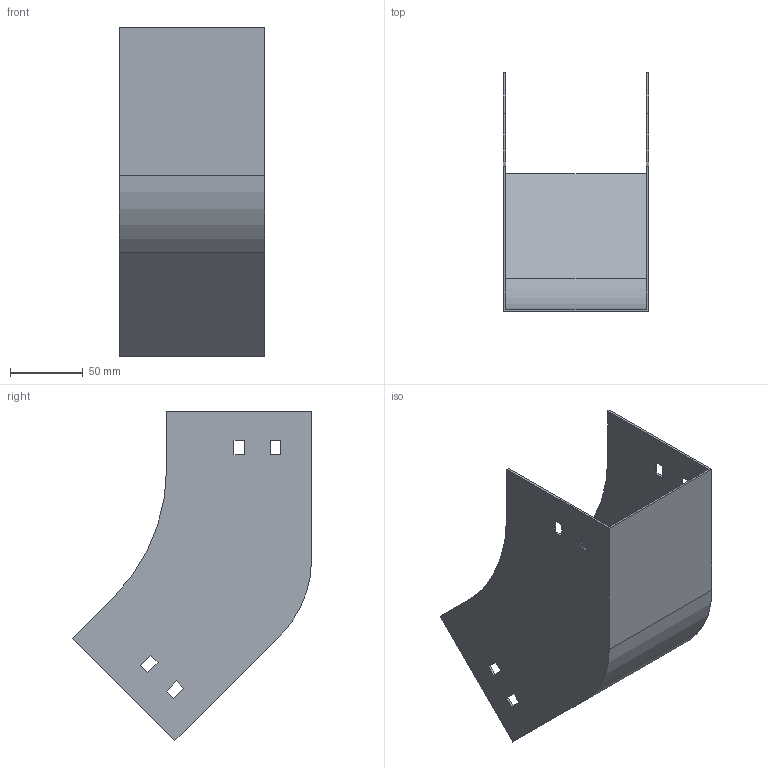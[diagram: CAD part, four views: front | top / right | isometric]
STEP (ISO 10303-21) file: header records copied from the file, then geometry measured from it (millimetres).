
FILE_DESCRIPTION (( 'STEP AP214' ), '1' );
FILE_NAME ('S4_101.step', '2025-07-16T09:26:09', ( '' ), ( '' ), 'SwSTEP 2.0', 'SolidWorks 2023', '' );
FILE_SCHEMA (( 'AUTOMOTIVE_DESIGN' ));
Length unit declared in the file: millimetre
Products named in the file (1): S4_101
Bounding box: 100 x 164.9 x 227.38 mm (x, y, z)
Volume: 105503.2 mm3; surface area: 142506.3 mm2
Topology: 1 solids, 1 shells, 50 faces, 144 edges, 96 vertices
Faces by surface type: plane 46, cylinder 4
Entity records: 1671 total; most frequent: CARTESIAN_POINT 291, ORIENTED_EDGE 288, DIRECTION 254, EDGE_CURVE 144, VECTOR 136, LINE 136, VERTEX_POINT 96, EDGE_LOOP 66
